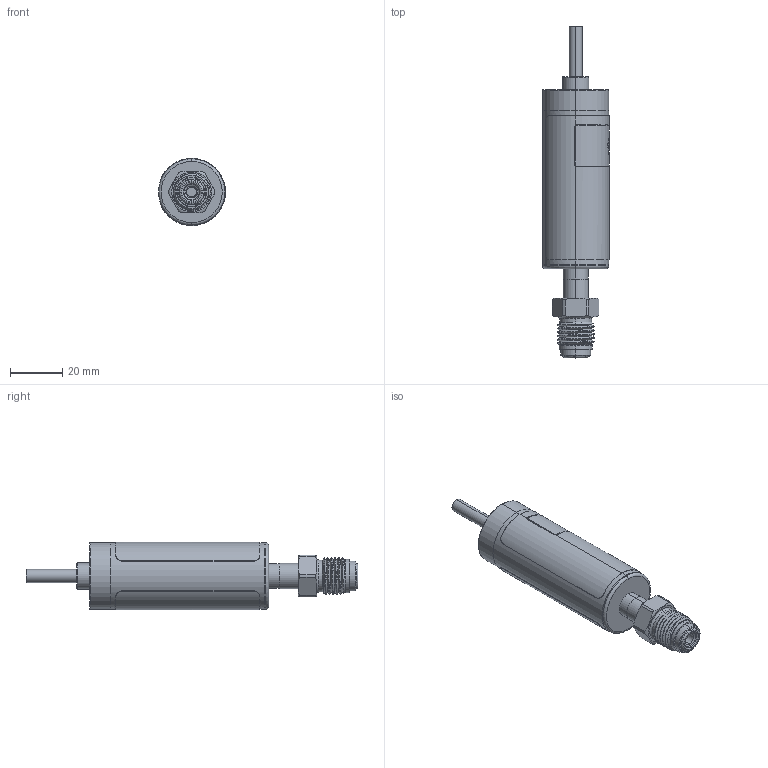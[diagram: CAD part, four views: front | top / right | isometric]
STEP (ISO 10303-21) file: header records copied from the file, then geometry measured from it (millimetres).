
FILE_DESCRIPTION (( 'STEP AP203' ), '1' );
FILE_NAME ('GSD-XXXXXX-P-XXX-SM.STEP', '2025-06-25T14:26:43', ( '' ), ( '' ), 'SwSTEP 2.0', 'SolidWorks 2023', '' );
FILE_SCHEMA (( 'CONFIG_CONTROL_DESIGN' ));
Length unit declared in the file: inch
Products named in the file (5): L and P_GIx; 333124_A333124001; ME131193; GSx Body_Default No Cable; GSD-XXXXXX-P-XXX-SM
Assembly tree (4 placements, depth 2):
  GSD-XXXXXX-P-XXX-SM
    GSx Body_Default No Cable
    L and P_GIx
    333124_A333124001
    ME131193
Bounding box: 25.65 x 127.13 x 25.76 mm (x, y, z)
Volume: 12173.6 mm3; surface area: 17413.7 mm2
Topology: 7 solids, 7 shells, 235 faces, 569 edges, 366 vertices
Faces by surface type: cylinder 81, plane 71, bspline 37, cone 24, torus 22
Entity records: 12015 total; most frequent: CARTESIAN_POINT 6250, ORIENTED_EDGE 1138, DIRECTION 1026, EDGE_CURVE 569, AXIS2_PLACEMENT_3D 429, VERTEX_POINT 366, EDGE_LOOP 263, ADVANCED_FACE 235
